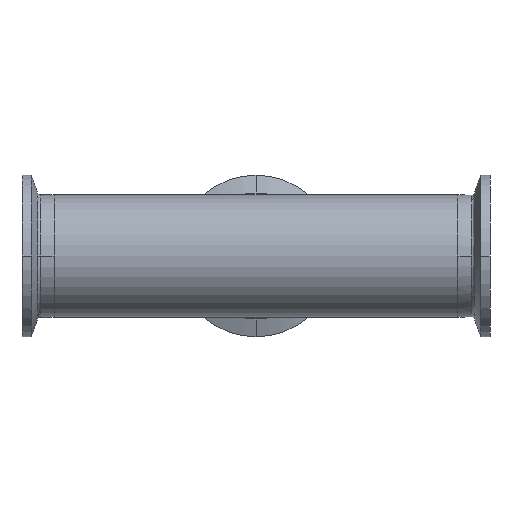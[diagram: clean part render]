
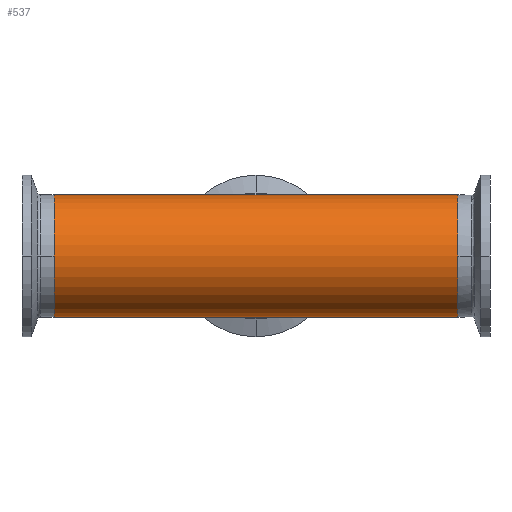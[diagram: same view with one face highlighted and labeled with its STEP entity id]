
A CAD part, front view. The second image highlights one B-rep face of the part: STEP entity #537.
In plain terms, the highlighted cylindrical face has radius 19.05 mm (diameter 38.1 mm), a partial arc.
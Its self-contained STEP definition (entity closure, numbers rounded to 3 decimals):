
#66 = CARTESIAN_POINT ( 'NONE',  ( 0., 0., -19.05 ) ) ;
#89 = CARTESIAN_POINT ( 'NONE',  ( 116.882, 0., 19.05 ) ) ;
#151 = DIRECTION ( 'NONE',  ( -1., 0., 0. ) ) ;
#169 = CARTESIAN_POINT ( 'NONE',  ( 116.882, 0., -19.05 ) ) ;
#192 = VERTEX_POINT ( 'NONE', #4059 ) ;
#241 = VERTEX_POINT ( 'NONE', #592 ) ;
#340 = LINE ( 'NONE', #89, #2132 ) ;
#433 = ORIENTED_EDGE ( 'NONE', *, *, #1640, .T. ) ;
#537 = ADVANCED_FACE ( 'NONE', ( #1716 ), #1766, .T. ) ;
#592 = CARTESIAN_POINT ( 'NONE',  ( -63., 0., -19.05 ) ) ;
#1124 = AXIS2_PLACEMENT_3D ( 'NONE', #3608, #4148, #4264 ) ;
#1132 = CARTESIAN_POINT ( 'NONE',  ( 63., 0., 0. ) ) ;
#1184 = EDGE_CURVE ( 'NONE', #2691, #241, #1480, .T. ) ;
#1248 = DIRECTION ( 'NONE',  ( -1., 0., 0. ) ) ;
#1266 = DIRECTION ( 'NONE',  ( -1., 0., 0. ) ) ;
#1317 = ORIENTED_EDGE ( 'NONE', *, *, #1184, .T. ) ;
#1350 = CARTESIAN_POINT ( 'NONE',  ( 63., 0., -19.05 ) ) ;
#1369 = CARTESIAN_POINT ( 'NONE',  ( 0., 0., 19.05 ) ) ;
#1476 = LINE ( 'NONE', #169, #4227 ) ;
#1480 = CIRCLE ( 'NONE', #1124, 19.05 ) ;
#1490 = DIRECTION ( 'NONE',  ( 0., 0., 1. ) ) ;
#1640 = EDGE_CURVE ( 'NONE', #192, #3174, #340, .T. ) ;
#1716 = FACE_OUTER_BOUND ( 'NONE', #3360, .T. ) ;
#1742 = LINE ( 'NONE', #1807, #3733 ) ;
#1752 = LINE ( 'NONE', #3793, #4516 ) ;
#1766 = CYLINDRICAL_SURFACE ( 'NONE', #2118, 19.05 ) ;
#1807 = CARTESIAN_POINT ( 'NONE',  ( 116.882, 0., -19.05 ) ) ;
#1998 = ORIENTED_EDGE ( 'NONE', *, *, #4282, .T. ) ;
#2062 = EDGE_CURVE ( 'NONE', #4367, #4563, #1476, .T. ) ;
#2118 = AXIS2_PLACEMENT_3D ( 'NONE', #4644, #2889, #3244 ) ;
#2132 = VECTOR ( 'NONE', #151, 1000. ) ;
#2290 = EDGE_CURVE ( 'NONE', #4367, #192, #2871, .T. ) ;
#2623 = ORIENTED_EDGE ( 'NONE', *, *, #3301, .F. ) ;
#2691 = VERTEX_POINT ( 'NONE', #4191 ) ;
#2787 = ORIENTED_EDGE ( 'NONE', *, *, #2062, .F. ) ;
#2871 = CIRCLE ( 'NONE', #3180, 19.05 ) ;
#2889 = DIRECTION ( 'NONE',  ( -1., 0., 0. ) ) ;
#3174 = VERTEX_POINT ( 'NONE', #1369 ) ;
#3180 = AXIS2_PLACEMENT_3D ( 'NONE', #1132, #3675, #1490 ) ;
#3244 = DIRECTION ( 'NONE',  ( 0., 0., 1. ) ) ;
#3257 = ORIENTED_EDGE ( 'NONE', *, *, #2290, .T. ) ;
#3301 = EDGE_CURVE ( 'NONE', #4563, #241, #1742, .T. ) ;
#3360 = EDGE_LOOP ( 'NONE', ( #2787, #3257, #433, #1998, #1317, #2623 ) ) ;
#3608 = CARTESIAN_POINT ( 'NONE',  ( -63., 0., 0. ) ) ;
#3675 = DIRECTION ( 'NONE',  ( -1., 0., 0. ) ) ;
#3733 = VECTOR ( 'NONE', #4321, 1000. ) ;
#3793 = CARTESIAN_POINT ( 'NONE',  ( 116.882, 0., 19.05 ) ) ;
#4059 = CARTESIAN_POINT ( 'NONE',  ( 63., 0., 19.05 ) ) ;
#4148 = DIRECTION ( 'NONE',  ( 1., 0., 0. ) ) ;
#4191 = CARTESIAN_POINT ( 'NONE',  ( -63., 0., 19.05 ) ) ;
#4227 = VECTOR ( 'NONE', #1266, 1000. ) ;
#4264 = DIRECTION ( 'NONE',  ( 0., 0., 1. ) ) ;
#4282 = EDGE_CURVE ( 'NONE', #3174, #2691, #1752, .T. ) ;
#4321 = DIRECTION ( 'NONE',  ( -1., 0., 0. ) ) ;
#4367 = VERTEX_POINT ( 'NONE', #1350 ) ;
#4516 = VECTOR ( 'NONE', #1248, 1000. ) ;
#4563 = VERTEX_POINT ( 'NONE', #66 ) ;
#4644 = CARTESIAN_POINT ( 'NONE',  ( 116.882, 0., 0. ) ) ;
